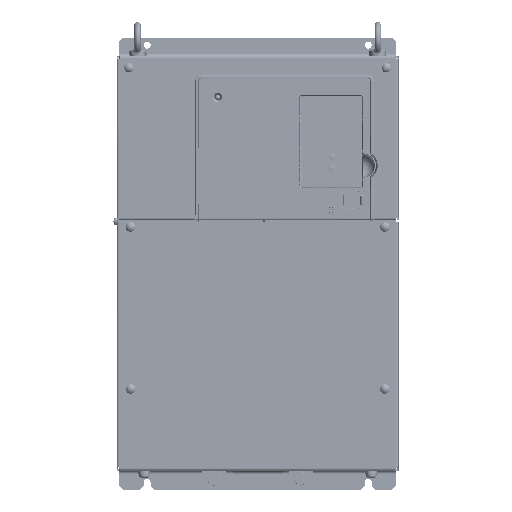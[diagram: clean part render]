
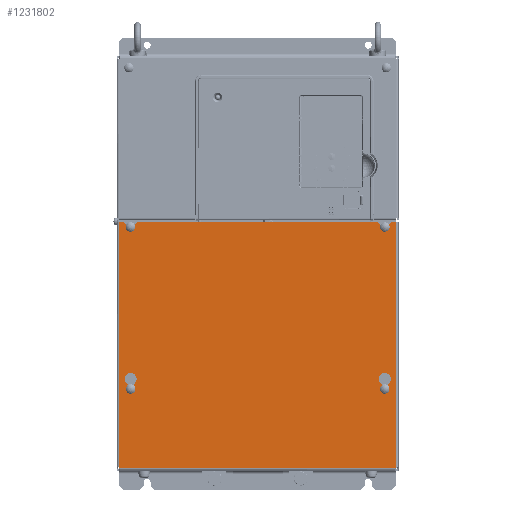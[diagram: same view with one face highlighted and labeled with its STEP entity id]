
A CAD part, top view. The second image highlights one B-rep face of the part: STEP entity #1231802.
In plain terms, the highlighted planar face has unit normal (0, 0, 1).
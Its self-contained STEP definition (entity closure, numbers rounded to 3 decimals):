
#1230273=CARTESIAN_POINT('',(-126.5,36.1,258.));
#1230274=DIRECTION('',(0.,0.,-1.));
#1230275=DIRECTION('',(0.88,0.475,0.));
#1230276=AXIS2_PLACEMENT_3D('',#1230273,#1230274,#1230275);
#1230283=DIRECTION('',(-0.707,-0.707,0.));
#1230284=VECTOR('',#1230283,4.052);
#1230285=CARTESIAN_POINT('',(-119.5,41.2,258.));
#1230286=LINE('',#1230285,#1230284);
#1230287=DIRECTION('',(-1.,0.,0.));
#1230288=VECTOR('',#1230287,239.);
#1230289=CARTESIAN_POINT('',(119.5,41.2,258.));
#1230290=LINE('',#1230289,#1230288);
#1230291=DIRECTION('',(-0.707,0.707,0.));
#1230292=VECTOR('',#1230291,4.052);
#1230293=CARTESIAN_POINT('',(122.365,38.335,258.));
#1230294=LINE('',#1230293,#1230292);
#1230295=DIRECTION('',(-0.707,-0.707,0.));
#1230296=VECTOR('',#1230295,4.052);
#1230297=CARTESIAN_POINT('',(133.5,41.2,258.));
#1230298=LINE('',#1230297,#1230296);
#1230299=DIRECTION('',(-1.,0.,0.));
#1230300=VECTOR('',#1230299,4.5);
#1230301=CARTESIAN_POINT('',(138.,41.2,258.));
#1230302=LINE('',#1230301,#1230300);
#1230303=CARTESIAN_POINT('',(138.895,-204.895,258.));
#1230304=DIRECTION('',(0.,0.,1.));
#1230305=DIRECTION('',(-0.448,0.894,0.));
#1230306=AXIS2_PLACEMENT_3D('',#1230303,#1230304,#1230305);
#1230308=CARTESIAN_POINT('',(-138.895,-204.895,258.));
#1230309=DIRECTION('',(0.,0.,1.));
#1230310=DIRECTION('',(0.894,0.448,0.));
#1230311=AXIS2_PLACEMENT_3D('',#1230308,#1230309,#1230310);
#1230313=DIRECTION('',(-1.,0.,0.));
#1230314=VECTOR('',#1230313,4.5);
#1230315=CARTESIAN_POINT('',(-133.5,41.2,258.));
#1230316=LINE('',#1230315,#1230314);
#1230317=DIRECTION('',(-0.707,0.707,0.));
#1230318=VECTOR('',#1230317,4.052);
#1230319=CARTESIAN_POINT('',(-130.635,38.335,258.));
#1230320=LINE('',#1230319,#1230318);
#1230321=CARTESIAN_POINT('',(-126.4,-125.,258.));
#1230322=DIRECTION('',(0.,0.,-1.));
#1230323=DIRECTION('',(0.638,0.77,0.));
#1230324=AXIS2_PLACEMENT_3D('',#1230321,#1230322,#1230323);
#1230326=DIRECTION('',(0.,-1.,0.));
#1230327=VECTOR('',#1230326,1.186);
#1230328=CARTESIAN_POINT('',(-123.4,-120.196,258.));
#1230329=LINE('',#1230328,#1230327);
#1230330=CARTESIAN_POINT('',(-126.4,-115.,258.));
#1230331=DIRECTION('',(0.,0.,1.));
#1230332=DIRECTION('',(0.5,-0.866,0.));
#1230333=AXIS2_PLACEMENT_3D('',#1230330,#1230331,#1230332);
#1230335=DIRECTION('',(0.,1.,0.));
#1230336=VECTOR('',#1230335,1.186);
#1230337=CARTESIAN_POINT('',(-129.4,-121.382,258.));
#1230338=LINE('',#1230337,#1230336);
#1230339=CARTESIAN_POINT('',(-126.4,-125.,258.));
#1230340=DIRECTION('',(0.,0.,-1.));
#1230341=DIRECTION('',(0.,-1.,0.));
#1230342=AXIS2_PLACEMENT_3D('',#1230339,#1230340,#1230341);
#1230344=CARTESIAN_POINT('',(126.4,-125.,258.));
#1230345=DIRECTION('',(0.,0.,-1.));
#1230346=DIRECTION('',(0.638,0.77,0.));
#1230347=AXIS2_PLACEMENT_3D('',#1230344,#1230345,#1230346);
#1230349=DIRECTION('',(0.,-1.,0.));
#1230350=VECTOR('',#1230349,1.186);
#1230351=CARTESIAN_POINT('',(129.4,-120.196,258.));
#1230352=LINE('',#1230351,#1230350);
#1230353=CARTESIAN_POINT('',(126.4,-115.,258.));
#1230354=DIRECTION('',(0.,0.,1.));
#1230355=DIRECTION('',(0.5,-0.866,0.));
#1230356=AXIS2_PLACEMENT_3D('',#1230353,#1230354,#1230355);
#1230358=DIRECTION('',(0.,1.,0.));
#1230359=VECTOR('',#1230358,1.186);
#1230360=CARTESIAN_POINT('',(123.4,-121.382,258.));
#1230361=LINE('',#1230360,#1230359);
#1230362=CARTESIAN_POINT('',(126.4,-125.,258.));
#1230363=DIRECTION('',(0.,0.,-1.));
#1230364=DIRECTION('',(0.,-1.,0.));
#1230365=AXIS2_PLACEMENT_3D('',#1230362,#1230363,#1230364);
#1230470=DIRECTION('',(0.,-1.,0.));
#1230471=VECTOR('',#1230470,244.307);
#1230472=CARTESIAN_POINT('',(-138.,41.2,258.));
#1230473=LINE('',#1230472,#1230471);
#1230584=DIRECTION('',(1.,0.,0.));
#1230585=VECTOR('',#1230584,274.213);
#1230586=CARTESIAN_POINT('',(-137.107,-204.,258.));
#1230587=LINE('',#1230586,#1230585);
#1230618=DIRECTION('',(0.,1.,0.));
#1230619=VECTOR('',#1230618,244.307);
#1230620=CARTESIAN_POINT('',(138.,-203.107,258.));
#1230621=LINE('',#1230620,#1230619);
#1231293=CARTESIAN_POINT('',(126.5,36.1,258.));
#1231294=DIRECTION('',(0.,0.,-1.));
#1231295=DIRECTION('',(0.88,0.475,0.));
#1231296=AXIS2_PLACEMENT_3D('',#1231293,#1231294,#1231295);
#1231303=CARTESIAN_POINT('',(126.5,36.1,258.));
#1231304=DIRECTION('',(0.,0.,-1.));
#1231305=DIRECTION('',(0.,-1.,0.));
#1231306=AXIS2_PLACEMENT_3D('',#1231303,#1231304,#1231305);
#1231359=CARTESIAN_POINT('',(-126.5,36.1,258.));
#1231360=DIRECTION('',(0.,0.,-1.));
#1231361=DIRECTION('',(0.,-1.,0.));
#1231362=AXIS2_PLACEMENT_3D('',#1231359,#1231360,#1231361);
#1231463=CARTESIAN_POINT('',(129.4,-120.196,258.));
#1231464=CARTESIAN_POINT('',(123.4,-120.196,258.));
#1231465=VERTEX_POINT('',#1231463);
#1231466=VERTEX_POINT('',#1231464);
#1231467=CARTESIAN_POINT('',(-123.4,-120.196,258.));
#1231468=CARTESIAN_POINT('',(-129.4,-120.196,258.));
#1231469=VERTEX_POINT('',#1231467);
#1231470=VERTEX_POINT('',#1231468);
#1231496=CARTESIAN_POINT('',(119.5,41.2,258.));
#1231498=VERTEX_POINT('',#1231496);
#1231505=CARTESIAN_POINT('',(133.5,41.2,258.));
#1231506=VERTEX_POINT('',#1231505);
#1231511=CARTESIAN_POINT('',(-119.5,41.2,258.));
#1231512=VERTEX_POINT('',#1231511);
#1231514=CARTESIAN_POINT('',(-133.5,41.2,258.));
#1231516=VERTEX_POINT('',#1231514);
#1231519=CARTESIAN_POINT('',(138.,41.2,258.));
#1231520=VERTEX_POINT('',#1231519);
#1231521=CARTESIAN_POINT('',(-138.,41.2,258.));
#1231522=VERTEX_POINT('',#1231521);
#1231575=CARTESIAN_POINT('',(138.,-203.107,258.));
#1231576=CARTESIAN_POINT('',(137.107,-204.,258.));
#1231577=VERTEX_POINT('',#1231575);
#1231578=VERTEX_POINT('',#1231576);
#1231579=CARTESIAN_POINT('',(-137.107,-204.,258.));
#1231580=CARTESIAN_POINT('',(-138.,-203.107,258.));
#1231581=VERTEX_POINT('',#1231579);
#1231582=VERTEX_POINT('',#1231580);
#1231635=CARTESIAN_POINT('',(-122.365,38.335,258.));
#1231636=CARTESIAN_POINT('',(-126.5,31.4,258.));
#1231637=VERTEX_POINT('',#1231635);
#1231638=VERTEX_POINT('',#1231636);
#1231647=CARTESIAN_POINT('',(-130.635,38.335,258.));
#1231648=VERTEX_POINT('',#1231647);
#1231649=CARTESIAN_POINT('',(130.635,38.335,258.));
#1231650=CARTESIAN_POINT('',(126.5,31.4,258.));
#1231651=VERTEX_POINT('',#1231649);
#1231652=VERTEX_POINT('',#1231650);
#1231661=CARTESIAN_POINT('',(122.365,38.335,258.));
#1231662=VERTEX_POINT('',#1231661);
#1231679=CARTESIAN_POINT('',(-123.4,-121.382,258.));
#1231680=CARTESIAN_POINT('',(-126.4,-129.7,258.));
#1231681=VERTEX_POINT('',#1231679);
#1231682=VERTEX_POINT('',#1231680);
#1231683=CARTESIAN_POINT('',(-129.4,-121.382,258.));
#1231684=VERTEX_POINT('',#1231683);
#1231705=CARTESIAN_POINT('',(129.4,-121.382,258.));
#1231706=CARTESIAN_POINT('',(126.4,-129.7,258.));
#1231707=VERTEX_POINT('',#1231705);
#1231708=VERTEX_POINT('',#1231706);
#1231709=CARTESIAN_POINT('',(123.4,-121.382,258.));
#1231710=VERTEX_POINT('',#1231709);
#1231740=CARTESIAN_POINT('',(0.,-204.5,258.));
#1231741=DIRECTION('',(0.,0.,1.));
#1231742=DIRECTION('',(1.,0.,0.));
#1231743=AXIS2_PLACEMENT_3D('',#1231740,#1231741,#1231742);
#1231744=PLANE('',#1231743);
#1231745=ORIENTED_EDGE('',*,*,#1231720,.F.);
#1231747=ORIENTED_EDGE('',*,*,#1231746,.F.);
#1231749=ORIENTED_EDGE('',*,*,#1231748,.F.);
#1231751=ORIENTED_EDGE('',*,*,#1231750,.F.);
#1231753=ORIENTED_EDGE('',*,*,#1231752,.F.);
#1231755=ORIENTED_EDGE('',*,*,#1231754,.F.);
#1231757=ORIENTED_EDGE('',*,*,#1231756,.F.);
#1231759=ORIENTED_EDGE('',*,*,#1231758,.F.);
#1231761=ORIENTED_EDGE('',*,*,#1231760,.F.);
#1231763=ORIENTED_EDGE('',*,*,#1231762,.T.);
#1231765=ORIENTED_EDGE('',*,*,#1231764,.F.);
#1231767=ORIENTED_EDGE('',*,*,#1231766,.T.);
#1231769=ORIENTED_EDGE('',*,*,#1231768,.F.);
#1231771=ORIENTED_EDGE('',*,*,#1231770,.F.);
#1231773=ORIENTED_EDGE('',*,*,#1231772,.F.);
#1231775=ORIENTED_EDGE('',*,*,#1231774,.F.);
#1231776=EDGE_LOOP('',(#1231745,#1231747,#1231749,#1231751,#1231753,#1231755,
#1231757,#1231759,#1231761,#1231763,#1231765,#1231767,#1231769,#1231771,
#1231773,#1231775));
#1231777=FACE_OUTER_BOUND('',#1231776,.F.);
#1231779=ORIENTED_EDGE('',*,*,#1231778,.F.);
#1231781=ORIENTED_EDGE('',*,*,#1231780,.F.);
#1231783=ORIENTED_EDGE('',*,*,#1231782,.T.);
#1231785=ORIENTED_EDGE('',*,*,#1231784,.F.);
#1231787=ORIENTED_EDGE('',*,*,#1231786,.F.);
#1231788=EDGE_LOOP('',(#1231779,#1231781,#1231783,#1231785,#1231787));
#1231789=FACE_BOUND('',#1231788,.F.);
#1231791=ORIENTED_EDGE('',*,*,#1231790,.F.);
#1231793=ORIENTED_EDGE('',*,*,#1231792,.F.);
#1231795=ORIENTED_EDGE('',*,*,#1231794,.T.);
#1231797=ORIENTED_EDGE('',*,*,#1231796,.F.);
#1231799=ORIENTED_EDGE('',*,*,#1231798,.F.);
#1231800=EDGE_LOOP('',(#1231791,#1231793,#1231795,#1231797,#1231799));
#1231801=FACE_BOUND('',#1231800,.F.);
#1231802=ADVANCED_FACE('',(#1231777,#1231789,#1231801),#1231744,.T.);
#1230277=CIRCLE('',#1230276,4.7);
#1230307=CIRCLE('',#1230306,2.);
#1230312=CIRCLE('',#1230311,2.);
#1230325=CIRCLE('',#1230324,4.7);
#1230334=CIRCLE('',#1230333,6.);
#1230343=CIRCLE('',#1230342,4.7);
#1230348=CIRCLE('',#1230347,4.7);
#1230357=CIRCLE('',#1230356,6.);
#1230366=CIRCLE('',#1230365,4.7);
#1231297=CIRCLE('',#1231296,4.7);
#1231307=CIRCLE('',#1231306,4.7);
#1231363=CIRCLE('',#1231362,4.7);
#1231720=EDGE_CURVE('',#1231637,#1231638,#1230277,.T.);
#1231746=EDGE_CURVE('',#1231512,#1231637,#1230286,.T.);
#1231748=EDGE_CURVE('',#1231498,#1231512,#1230290,.T.);
#1231750=EDGE_CURVE('',#1231662,#1231498,#1230294,.T.);
#1231752=EDGE_CURVE('',#1231652,#1231662,#1231307,.T.);
#1231754=EDGE_CURVE('',#1231651,#1231652,#1231297,.T.);
#1231756=EDGE_CURVE('',#1231506,#1231651,#1230298,.T.);
#1231758=EDGE_CURVE('',#1231520,#1231506,#1230302,.T.);
#1231760=EDGE_CURVE('',#1231577,#1231520,#1230621,.T.);
#1231762=EDGE_CURVE('',#1231577,#1231578,#1230307,.T.);
#1231764=EDGE_CURVE('',#1231581,#1231578,#1230587,.T.);
#1231766=EDGE_CURVE('',#1231581,#1231582,#1230312,.T.);
#1231768=EDGE_CURVE('',#1231522,#1231582,#1230473,.T.);
#1231770=EDGE_CURVE('',#1231516,#1231522,#1230316,.T.);
#1231772=EDGE_CURVE('',#1231648,#1231516,#1230320,.T.);
#1231774=EDGE_CURVE('',#1231638,#1231648,#1231363,.T.);
#1231778=EDGE_CURVE('',#1231681,#1231682,#1230325,.T.);
#1231780=EDGE_CURVE('',#1231469,#1231681,#1230329,.T.);
#1231782=EDGE_CURVE('',#1231469,#1231470,#1230334,.T.);
#1231784=EDGE_CURVE('',#1231684,#1231470,#1230338,.T.);
#1231786=EDGE_CURVE('',#1231682,#1231684,#1230343,.T.);
#1231790=EDGE_CURVE('',#1231707,#1231708,#1230348,.T.);
#1231792=EDGE_CURVE('',#1231465,#1231707,#1230352,.T.);
#1231794=EDGE_CURVE('',#1231465,#1231466,#1230357,.T.);
#1231796=EDGE_CURVE('',#1231710,#1231466,#1230361,.T.);
#1231798=EDGE_CURVE('',#1231708,#1231710,#1230366,.T.);
